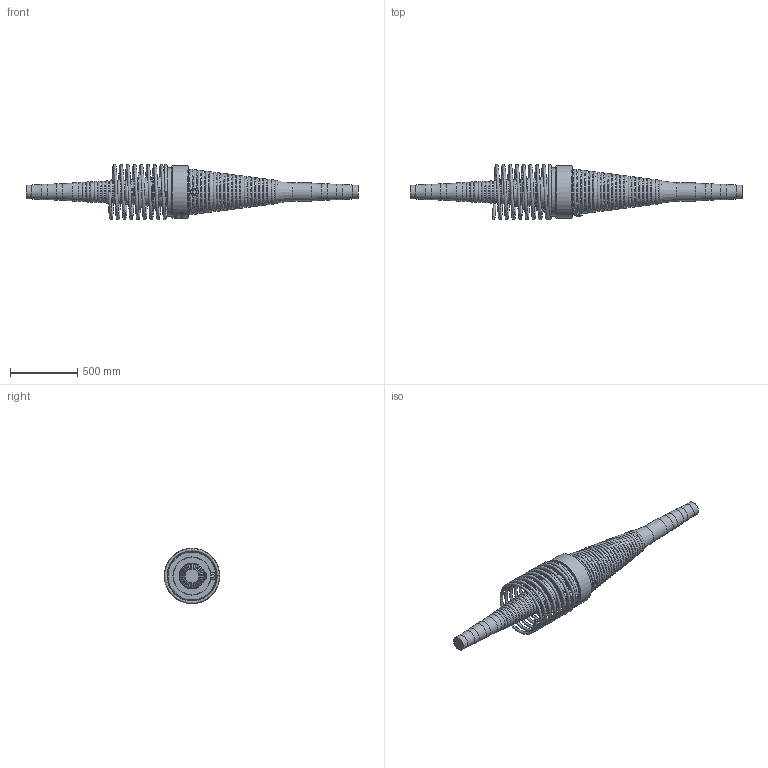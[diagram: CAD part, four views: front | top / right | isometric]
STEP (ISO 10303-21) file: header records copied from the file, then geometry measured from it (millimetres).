
FILE_DESCRIPTION(/* description */ (''),/* implementation_level */ '2;1');
FILE_NAME(/* name */ 'BBR VT CONA CMI BT 3106_Coupler K Assembly_CS-43,35 - Only Helix.stp',/* time_stamp */ '2025-04-17T15:10:20+02:00',/* author */ ('tk'),/* organization */ (''),/* preprocessor_version */ 'ST-DEVELOPER v20',/* originating_system */ 'Autodesk Inventor 2024',/* authorisation */ '');
FILE_SCHEMA (('AUTOMOTIVE_DESIGN { 1 0 10303 214 3 1 1 }'));
Products named in the file (1): BBR VT CONA CMI BT 3106_Coupler K Assembly_CS-43,35 - Only Helix
Bounding box: 2468.22 x 409.96 x 409.95 mm (x, y, z)
Volume: 86926858.3 mm3; surface area: 2490846.5 mm2
Topology: 2 solids, 2 shells, 1029 faces, 2648 edges, 1694 vertices
Faces by surface type: bspline 386, plane 352, torus 141, cylinder 99, cone 41, sphere 10
Full cylindrical faces by diameter (mm): 34 x1, 34.089 x1, 57 x1, 57.089 x1, 104 x2, 114 x2, 124 x2, 134 x2, 208 x1, 279 x1, 283 x1, 360 x1, 375 x1, 386 x1, 390 x1
Entity records: 46245 total; most frequent: CARTESIAN_POINT 22139, ORIENTED_EDGE 5284, DIRECTION 3966, EDGE_CURVE 2642, VERTEX_POINT 1694, AXIS2_PLACEMENT_3D 1468, EDGE_LOOP 1108, STYLED_ITEM 1031
